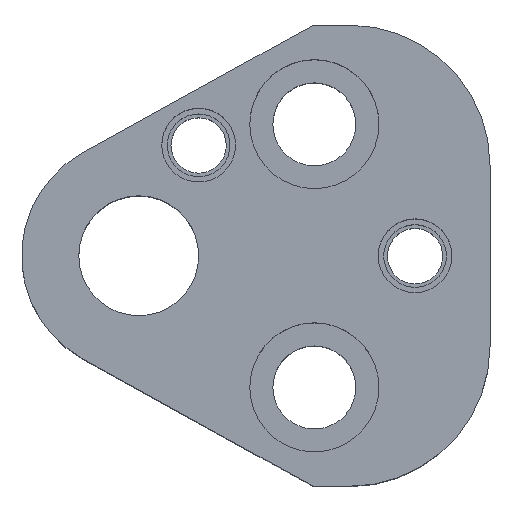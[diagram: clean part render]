
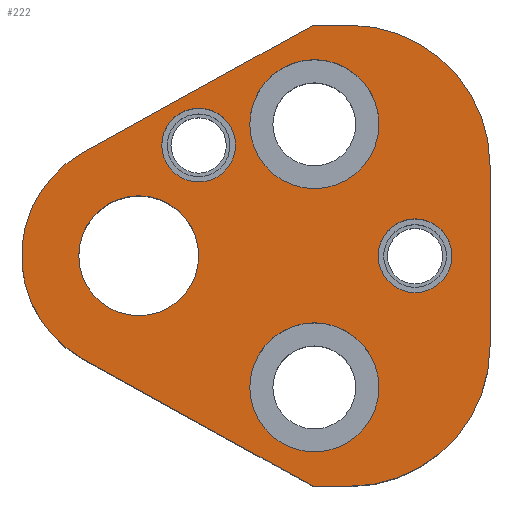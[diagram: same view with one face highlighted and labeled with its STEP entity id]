
A CAD part, top view. The second image highlights one B-rep face of the part: STEP entity #222.
In plain terms, the highlighted planar face has unit normal (0, 0, 1).
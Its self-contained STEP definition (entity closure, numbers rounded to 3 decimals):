
#101=FACE_BOUND('',#311,.T.);
#102=FACE_BOUND('',#312,.T.);
#103=FACE_BOUND('',#313,.T.);
#104=FACE_BOUND('',#314,.T.);
#105=FACE_BOUND('',#315,.T.);
#106=FACE_BOUND('',#316,.T.);
#150=CIRCLE('',#788,15.2);
#152=CIRCLE('',#792,15.2);
#155=CIRCLE('',#798,12.7);
#164=CIRCLE('',#812,7.);
#166=CIRCLE('',#815,7.);
#168=CIRCLE('',#819,7.);
#170=CIRCLE('',#822,7.);
#172=CIRCLE('',#826,4.);
#173=CIRCLE('',#827,4.);
#174=CIRCLE('',#828,4.);
#175=CIRCLE('',#829,4.);
#176=CIRCLE('',#830,6.5);
#177=CIRCLE('',#831,6.5);
#222=ADVANCED_FACE('',(#101,#102,#103,#104,#105,#106),#252,.T.);
#252=PLANE('',#832);
#311=EDGE_LOOP('',(#421,#422,#423,#424,#425,#426,#427,#428));
#312=EDGE_LOOP('',(#429,#430));
#313=EDGE_LOOP('',(#431,#432));
#314=EDGE_LOOP('',(#433,#434));
#315=EDGE_LOOP('',(#435,#436));
#316=EDGE_LOOP('',(#437,#438));
#421=ORIENTED_EDGE('',*,*,#606,.T.);
#422=ORIENTED_EDGE('',*,*,#610,.T.);
#423=ORIENTED_EDGE('',*,*,#613,.T.);
#424=ORIENTED_EDGE('',*,*,#616,.T.);
#425=ORIENTED_EDGE('',*,*,#619,.T.);
#426=ORIENTED_EDGE('',*,*,#622,.T.);
#427=ORIENTED_EDGE('',*,*,#625,.T.);
#428=ORIENTED_EDGE('',*,*,#628,.T.);
#429=ORIENTED_EDGE('',*,*,#653,.F.);
#430=ORIENTED_EDGE('',*,*,#654,.F.);
#431=ORIENTED_EDGE('',*,*,#655,.F.);
#432=ORIENTED_EDGE('',*,*,#656,.F.);
#433=ORIENTED_EDGE('',*,*,#651,.F.);
#434=ORIENTED_EDGE('',*,*,#647,.F.);
#435=ORIENTED_EDGE('',*,*,#645,.F.);
#436=ORIENTED_EDGE('',*,*,#641,.F.);
#437=ORIENTED_EDGE('',*,*,#657,.T.);
#438=ORIENTED_EDGE('',*,*,#658,.T.);
#542=VERTEX_POINT('',#1118);
#543=VERTEX_POINT('',#1120);
#546=VERTEX_POINT('',#1127);
#548=VERTEX_POINT('',#1133);
#550=VERTEX_POINT('',#1139);
#552=VERTEX_POINT('',#1145);
#554=VERTEX_POINT('',#1151);
#556=VERTEX_POINT('',#1157);
#565=VERTEX_POINT('',#1189);
#566=VERTEX_POINT('',#1190);
#569=VERTEX_POINT('',#1202);
#570=VERTEX_POINT('',#1203);
#573=VERTEX_POINT('',#1215);
#574=VERTEX_POINT('',#1216);
#575=VERTEX_POINT('',#1219);
#576=VERTEX_POINT('',#1220);
#577=VERTEX_POINT('',#1223);
#578=VERTEX_POINT('',#1224);
#606=EDGE_CURVE('',#543,#542,#702,.T.);
#610=EDGE_CURVE('',#542,#546,#706,.T.);
#613=EDGE_CURVE('',#546,#548,#150,.T.);
#616=EDGE_CURVE('',#548,#550,#710,.T.);
#619=EDGE_CURVE('',#550,#552,#152,.T.);
#622=EDGE_CURVE('',#552,#554,#714,.T.);
#625=EDGE_CURVE('',#554,#556,#717,.T.);
#628=EDGE_CURVE('',#556,#543,#155,.T.);
#641=EDGE_CURVE('',#565,#566,#164,.T.);
#645=EDGE_CURVE('',#566,#565,#166,.T.);
#647=EDGE_CURVE('',#569,#570,#168,.T.);
#651=EDGE_CURVE('',#570,#569,#170,.T.);
#653=EDGE_CURVE('',#573,#574,#172,.T.);
#654=EDGE_CURVE('',#574,#573,#173,.T.);
#655=EDGE_CURVE('',#575,#576,#174,.T.);
#656=EDGE_CURVE('',#576,#575,#175,.T.);
#657=EDGE_CURVE('',#577,#578,#176,.T.);
#658=EDGE_CURVE('',#578,#577,#177,.T.);
#702=LINE('',#1119,#744);
#706=LINE('',#1128,#748);
#710=LINE('',#1140,#752);
#714=LINE('',#1152,#756);
#717=LINE('',#1158,#759);
#744=VECTOR('',#884,1.);
#748=VECTOR('',#890,1.);
#752=VECTOR('',#902,1.);
#756=VECTOR('',#914,1.);
#759=VECTOR('',#919,1.);
#788=AXIS2_PLACEMENT_3D('',#1134,#895,#896);
#792=AXIS2_PLACEMENT_3D('',#1146,#907,#908);
#798=AXIS2_PLACEMENT_3D('',#1162,#925,#926);
#812=AXIS2_PLACEMENT_3D('',#1188,#957,#958);
#815=AXIS2_PLACEMENT_3D('',#1197,#965,#966);
#819=AXIS2_PLACEMENT_3D('',#1201,#973,#974);
#822=AXIS2_PLACEMENT_3D('',#1210,#981,#982);
#826=AXIS2_PLACEMENT_3D('',#1214,#989,#990);
#827=AXIS2_PLACEMENT_3D('',#1217,#991,#992);
#828=AXIS2_PLACEMENT_3D('',#1218,#993,#994);
#829=AXIS2_PLACEMENT_3D('',#1221,#995,#996);
#830=AXIS2_PLACEMENT_3D('',#1222,#997,#998);
#831=AXIS2_PLACEMENT_3D('',#1225,#999,#1000);
#832=AXIS2_PLACEMENT_3D('',#1226,#1001,#1002);
#884=DIRECTION('',(0.875,-0.485,0.));
#890=DIRECTION('',(1.,0.,0.));
#895=DIRECTION('',(0.,0.,1.));
#896=DIRECTION('',(-0.707,0.707,0.));
#902=DIRECTION('',(0.,1.,0.));
#907=DIRECTION('',(0.,0.,1.));
#908=DIRECTION('',(-0.707,-0.707,0.));
#914=DIRECTION('',(-1.,0.,0.));
#919=DIRECTION('',(-0.875,-0.485,0.));
#925=DIRECTION('',(0.,0.,1.));
#926=DIRECTION('',(1.,0.,0.));
#957=DIRECTION('',(0.,0.,1.));
#958=DIRECTION('',(-1.,0.,0.));
#965=DIRECTION('',(0.,0.,1.));
#966=DIRECTION('',(1.,0.,0.));
#973=DIRECTION('',(0.,0.,1.));
#974=DIRECTION('',(-1.,0.,0.));
#981=DIRECTION('',(0.,0.,1.));
#982=DIRECTION('',(1.,0.,0.));
#989=DIRECTION('',(0.,0.,1.));
#990=DIRECTION('',(1.,0.,0.));
#991=DIRECTION('',(0.,0.,1.));
#992=DIRECTION('',(-1.,0.,0.));
#993=DIRECTION('',(0.,0.,1.));
#994=DIRECTION('',(1.,0.,0.));
#995=DIRECTION('',(0.,0.,1.));
#996=DIRECTION('',(-1.,0.,0.));
#997=DIRECTION('',(0.,0.,-1.));
#998=DIRECTION('',(-1.,0.,0.));
#999=DIRECTION('',(0.,0.,-1.));
#1000=DIRECTION('',(1.,0.,0.));
#1001=DIRECTION('',(0.,0.,1.));
#1002=DIRECTION('',(-0.875,0.485,0.));
#1118=CARTESIAN_POINT('',(18.905,-25.,32.));
#1119=CARTESIAN_POINT('',(18.905,-25.,32.));
#1120=CARTESIAN_POINT('',(-6.157,-11.108,32.));
#1127=CARTESIAN_POINT('',(22.9,-25.,32.));
#1128=CARTESIAN_POINT('',(18.905,-25.,32.));
#1133=CARTESIAN_POINT('',(38.1,-9.8,32.));
#1134=CARTESIAN_POINT('',(22.9,-9.8,32.));
#1139=CARTESIAN_POINT('',(38.1,9.8,32.));
#1140=CARTESIAN_POINT('',(38.1,9.8,32.));
#1145=CARTESIAN_POINT('',(22.9,25.,32.));
#1146=CARTESIAN_POINT('',(22.9,9.8,32.));
#1151=CARTESIAN_POINT('',(18.905,25.,32.));
#1152=CARTESIAN_POINT('',(18.905,25.,32.));
#1157=CARTESIAN_POINT('',(-6.157,11.108,32.));
#1158=CARTESIAN_POINT('',(18.905,25.,32.));
#1162=CARTESIAN_POINT('',(0.,0.,32.));
#1188=CARTESIAN_POINT('',(19.05,-14.27,32.));
#1189=CARTESIAN_POINT('',(19.05,-21.27,32.));
#1190=CARTESIAN_POINT('',(19.05,-7.27,32.));
#1197=CARTESIAN_POINT('',(19.05,-14.27,32.));
#1201=CARTESIAN_POINT('',(19.05,14.27,32.));
#1202=CARTESIAN_POINT('',(19.05,7.27,32.));
#1203=CARTESIAN_POINT('',(19.05,21.27,32.));
#1210=CARTESIAN_POINT('',(19.05,14.27,32.));
#1214=CARTESIAN_POINT('',(29.97,0.,32.));
#1215=CARTESIAN_POINT('',(29.97,4.,32.));
#1216=CARTESIAN_POINT('',(29.97,-4.,32.));
#1217=CARTESIAN_POINT('',(29.97,0.,32.));
#1218=CARTESIAN_POINT('',(6.5,12.,32.));
#1219=CARTESIAN_POINT('',(6.5,16.,32.));
#1220=CARTESIAN_POINT('',(6.5,8.,32.));
#1221=CARTESIAN_POINT('',(6.5,12.,32.));
#1222=CARTESIAN_POINT('',(0.,0.,32.));
#1223=CARTESIAN_POINT('',(0.,6.5,32.));
#1224=CARTESIAN_POINT('',(0.,-6.5,32.));
#1225=CARTESIAN_POINT('',(0.,0.,32.));
#1226=CARTESIAN_POINT('',(-6.157,-11.108,32.));
